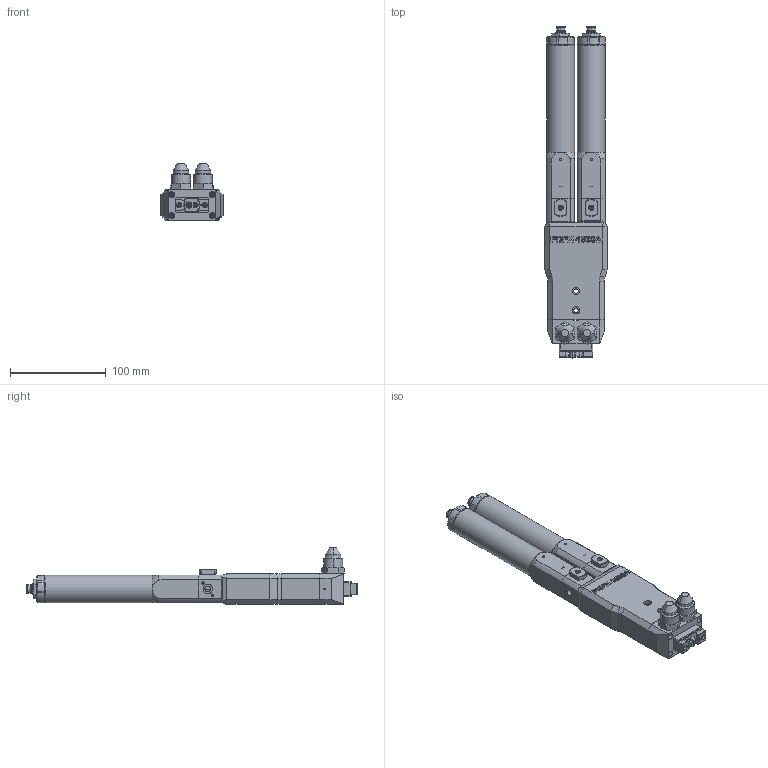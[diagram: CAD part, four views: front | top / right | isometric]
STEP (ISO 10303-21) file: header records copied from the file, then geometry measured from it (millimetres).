
FILE_DESCRIPTION (( 'STEP AP214' ), '1' );
FILE_NAME ('PDPM-1500-150BB.STEP', '2024-10-11T12:33:18', ( '' ), ( '' ), 'SwSTEP 2.0', 'SolidWorks 2024', '' );
FILE_SCHEMA (( 'AUTOMOTIVE_DESIGN' ));
Length unit declared in the file: millimetre
Products named in the file (1): PDPM-1500-150BB
Bounding box: 65 x 347 x 59.3 mm (x, y, z)
Volume: 524307.6 mm3; surface area: 123147.9 mm2
Topology: 13 solids, 13 shells, 1627 faces, 4122 edges, 2619 vertices
Faces by surface type: plane 818, cylinder 495, cone 278, bspline 16, torus 12, sphere 8
Full cylindrical faces by diameter (mm): 29 x2
Entity records: 61237 total; most frequent: CARTESIAN_POINT 22405, ORIENTED_EDGE 8158, DIRECTION 7874, EDGE_CURVE 4079, AXIS2_PLACEMENT_3D 2789, VERTEX_POINT 2618, VECTOR 2296, LINE 2296
